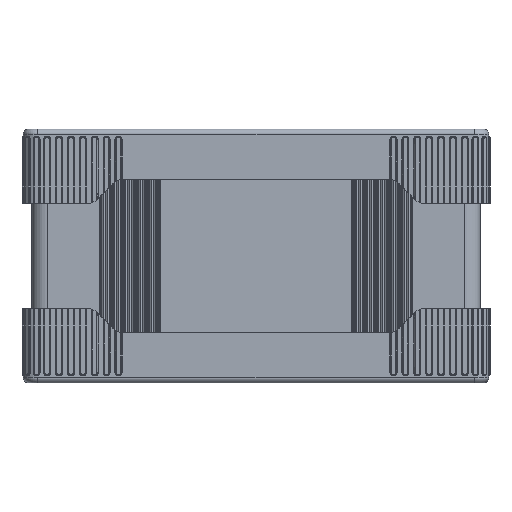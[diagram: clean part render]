
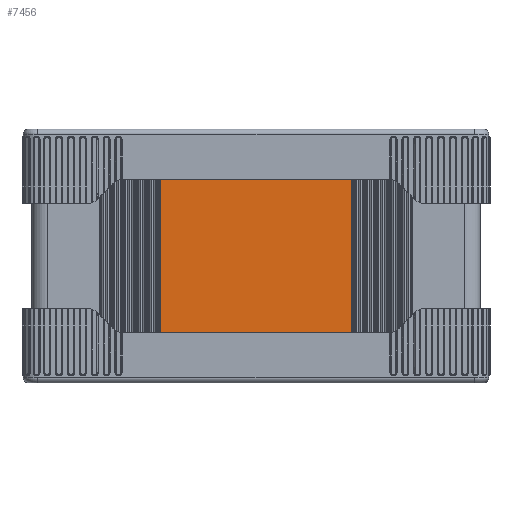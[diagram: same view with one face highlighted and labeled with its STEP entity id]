
A CAD part, front view. The second image highlights one B-rep face of the part: STEP entity #7456.
In plain terms, the highlighted planar face has unit normal (0, -1, 0).
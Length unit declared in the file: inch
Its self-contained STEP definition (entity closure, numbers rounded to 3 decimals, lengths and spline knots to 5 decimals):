
#2917 = FACE_OUTER_BOUND ( 'NONE', #6809, .T. ) ;
#5296 = CARTESIAN_POINT ( 'NONE',  ( -1.41606, -0.50726, 1.5748 ) ) ;
#6414 = LINE ( 'NONE', #11859, #19399 ) ;
#6809 = EDGE_LOOP ( 'NONE', ( #16592, #13926, #8098, #13200 ) ) ;
#7456 = ADVANCED_FACE ( 'NONE', ( #2917 ), #19028, .T. ) ;
#8098 = ORIENTED_EDGE ( 'NONE', *, *, #9077, .T. ) ;
#8185 = VERTEX_POINT ( 'NONE', #9339 ) ;
#8468 = VECTOR ( 'NONE', #15210, 39.37008 ) ;
#9077 = EDGE_CURVE ( 'NONE', #17914, #19563, #31575, .T. ) ;
#9339 = CARTESIAN_POINT ( 'NONE',  ( 1.41606, -0.50726, -1.5748 ) ) ;
#10134 = EDGE_CURVE ( 'NONE', #17914, #8185, #29903, .T. ) ;
#11178 = AXIS2_PLACEMENT_3D ( 'NONE', #21653, #26862, #11333 ) ;
#11333 = DIRECTION ( 'NONE',  ( 0., 0., -1. ) ) ;
#11859 = CARTESIAN_POINT ( 'NONE',  ( -1.41606, -0.50726, 1.5748 ) ) ;
#12045 = CARTESIAN_POINT ( 'NONE',  ( 0., -0.50726, -1.5748 ) ) ;
#13200 = ORIENTED_EDGE ( 'NONE', *, *, #14748, .T. ) ;
#13926 = ORIENTED_EDGE ( 'NONE', *, *, #10134, .F. ) ;
#14468 = DIRECTION ( 'NONE',  ( 0., 0., -1. ) ) ;
#14500 = VECTOR ( 'NONE', #26547, 39.37008 ) ;
#14748 = EDGE_CURVE ( 'NONE', #19563, #23875, #6414, .T. ) ;
#15210 = DIRECTION ( 'NONE',  ( -1., 0., 0. ) ) ;
#16306 = CARTESIAN_POINT ( 'NONE',  ( -1.41606, -0.50726, -1.5748 ) ) ;
#16592 = ORIENTED_EDGE ( 'NONE', *, *, #28708, .F. ) ;
#17914 = VERTEX_POINT ( 'NONE', #23390 ) ;
#19028 = PLANE ( 'NONE',  #11178 ) ;
#19204 = VECTOR ( 'NONE', #27660, 39.37008 ) ;
#19399 = VECTOR ( 'NONE', #14468, 39.37008 ) ;
#19563 = VERTEX_POINT ( 'NONE', #5296 ) ;
#21339 = CARTESIAN_POINT ( 'NONE',  ( 1.41606, -0.50726, 1.5748 ) ) ;
#21653 = CARTESIAN_POINT ( 'NONE',  ( 0., -0.50726, 1.5748 ) ) ;
#23390 = CARTESIAN_POINT ( 'NONE',  ( 1.41606, -0.50726, 1.5748 ) ) ;
#23875 = VERTEX_POINT ( 'NONE', #16306 ) ;
#26089 = LINE ( 'NONE', #12045, #19204 ) ;
#26547 = DIRECTION ( 'NONE',  ( 0., 0., -1. ) ) ;
#26862 = DIRECTION ( 'NONE',  ( 0., -1., 0. ) ) ;
#27660 = DIRECTION ( 'NONE',  ( -1., 0., 0. ) ) ;
#28708 = EDGE_CURVE ( 'NONE', #8185, #23875, #26089, .T. ) ;
#29903 = LINE ( 'NONE', #21339, #14500 ) ;
#31575 = LINE ( 'NONE', #33295, #8468 ) ;
#33295 = CARTESIAN_POINT ( 'NONE',  ( 0., -0.50726, 1.5748 ) ) ;
